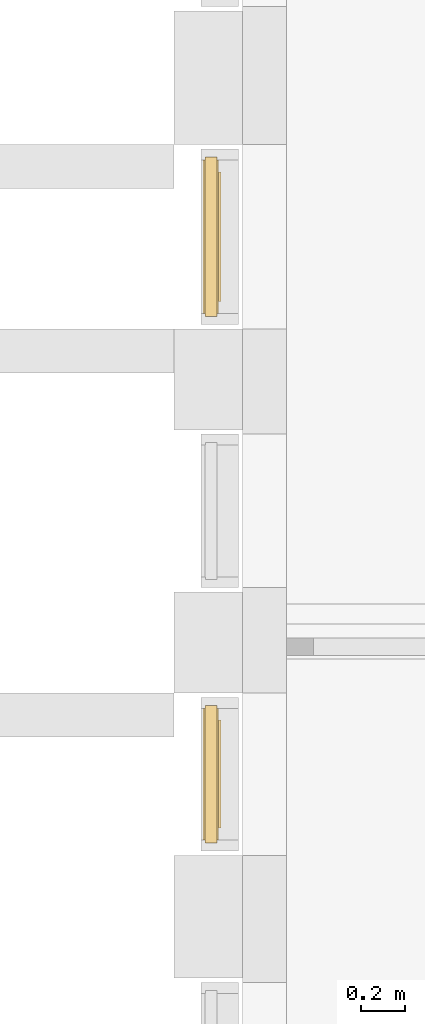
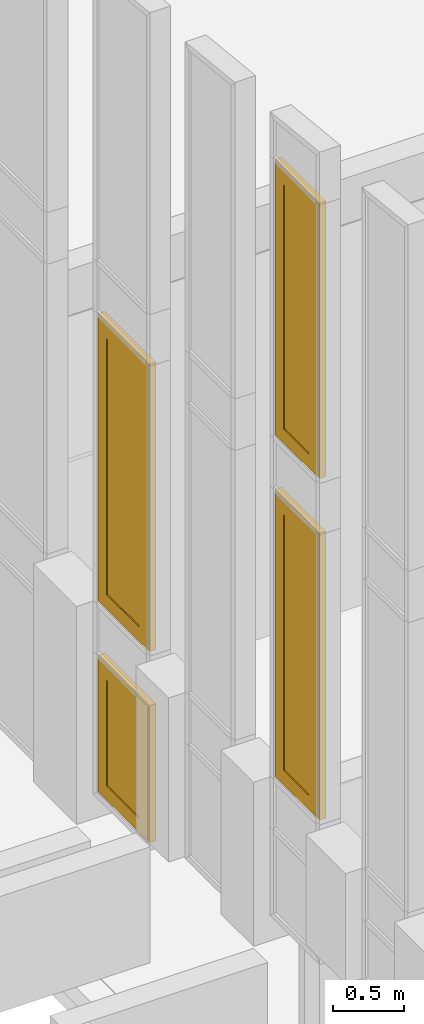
# One storey, part 157 of 246: 4 windows, 2 elements without a shape of their own.
"""IFC2X3 building model written with IfcOpenShell, lengths in millimetres."""

from ifc_helpers import new_model, entity, si_unit, converted_unit, derived_unit, money_unit, direction, frame, origin_with_axes, place, context, subcontext, project, spatial, open_shell, faceted_brep, surface_model, material, material_list, type_object, element, aggregate, save


model = new_model("IFC2X3")

# Units and contexts
model_context = context("Model", 3, precision=0.01, world=origin_with_axes(), true_north=direction((0.0, 1.0)))
body_context = subcontext(model_context, "Body", "Model", "MODEL_VIEW")
ifc_project = project(units=[si_unit("LENGTHUNIT", "METRE", prefix="MILLI"), si_unit("AREAUNIT", "SQUARE_METRE"), si_unit("VOLUMEUNIT", "CUBIC_METRE"), converted_unit("PLANEANGLEUNIT", "DEGREE", entity("IfcPlaneAngleMeasure", 0.0174532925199), si_unit("PLANEANGLEUNIT", "RADIAN"), dimensions=[0, 0, 0, 0, 0, 0, 0]), si_unit("SOLIDANGLEUNIT", "STERADIAN"), money_unit("EUR"), converted_unit("TIMEUNIT", "Year", entity("IfcTimeMeasure", 31556926.0), si_unit("TIMEUNIT", "SECOND"), dimensions=[0, 0, 1, 0, 0, 0, 0]), si_unit("MASSUNIT", "GRAM", prefix="KILO"), si_unit("THERMODYNAMICTEMPERATUREUNIT", "DEGREE_CELSIUS"), si_unit("LUMINOUSINTENSITYUNIT", "LUMEN"), si_unit("ENERGYUNIT", "JOULE", prefix="MEGA"), derived_unit("THERMALCONDUCTANCEUNIT", [(si_unit("POWERUNIT", "WATT"), 1), (si_unit("LENGTHUNIT", "METRE"), -1), (si_unit("THERMODYNAMICTEMPERATUREUNIT", "KELVIN"), -1)]), derived_unit("SPECIFICHEATCAPACITYUNIT", [(si_unit("ENERGYUNIT", "JOULE"), 1), (si_unit("MASSUNIT", "GRAM", prefix="KILO"), -1), (si_unit("THERMODYNAMICTEMPERATUREUNIT", "KELVIN"), -1)]), derived_unit("MASSDENSITYUNIT", [(si_unit("MASSUNIT", "GRAM", prefix="KILO"), 1), (si_unit("VOLUMEUNIT", "CUBIC_METRE"), -1)])], contexts=[model_context])

# Site, building, storey
site_placement = place(None, origin_with_axes())
site = spatial("IfcSite", under=ifc_project, at=site_placement, Name="L.Koidula tn 11b", CompositionType="ELEMENT")
building_placement = place(site_placement, origin_with_axes())
building = spatial("IfcBuilding", under=site, at=building_placement, Name="Rakvere Riigigümnaasium", CompositionType="ELEMENT")
storey_placement = place(building_placement, origin_with_axes())
storey = spatial("IfcBuildingStorey", under=building, at=storey_placement, Name="1.korrus 0,00", CompositionType="ELEMENT", Elevation=0.0)

# Curtain wall, windows
curtain_wall_type = type_object("IfcCurtainWallType", Name="Curtain Wall Type", PredefinedType="NOTDEFINED")
curtain_wall_1_placement = place(storey_placement, frame((35156.0871538, 27260.4554897, 2070.0), z_axis=(0.0, 0.0, 1.0), x_axis=(1.0, 0.0, 0.0)))
curtain_wall_1 = element("IfcCurtainWall", 1, at=curtain_wall_1_placement, inside=storey, type_object=curtain_wall_type, Name="KLF-04-03")
ifc_material_1 = material(Name="Alumiiniumprofiil (RAL 7021)")
ifc_material_2 = material(Name="Klaaspakett 3x")
ifc_material_list = material_list([ifc_material_1, ifc_material_2])
window_style_1 = type_object("IfcWindowStyle", Name="726 x 2476 x 54", ConstructionType="NOTDEFINED", OperationType="NOTDEFINED", ParameterTakesPrecedence=False, Sizeable=False)
window_1_placement = place(curtain_wall_1_placement, frame((0.0, 0.0, 2925.00005204), z_axis=(0.0, 0.0, 1.0), x_axis=(0.0, 1.0, 0.0)))
window_1 = element("IfcWindow", 2, at=window_1_placement, type_object=window_style_1, material=ifc_material_list, Name="KLF-04-A-3", ObjectType="WINDOW", context=body_context, shape_type="SurfaceModel", body=[
    surface_model("IfcShellBasedSurfaceModel", [(349.999995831, 36.0, -1225.0), (295.999995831, 36.0, -1171.0), (-296.000004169, 36.0, -1171.0), (-350.000004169, 36.0, -1225.0)], [open_shell([[[0, 1, 2, 3]]])]),
    surface_model("IfcShellBasedSurfaceModel", [(-350.000004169, 36.0, -1225.0), (-296.000004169, 36.0, -1171.0), (-296.000004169, 36.0, 1171.0), (-350.000004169, 36.0, 1225.0)], [open_shell([[[0, 1, 2, 3]]])]),
    surface_model("IfcShellBasedSurfaceModel", [(349.999995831, 36.0, 1225.0), (-350.000004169, 36.0, 1225.0), (-296.000004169, 36.0, 1171.0), (295.999995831, 36.0, 1171.0)], [open_shell([[[0, 1, 2, 3]]])]),
    surface_model("IfcShellBasedSurfaceModel", [(349.999995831, 36.0, -1225.0), (349.999995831, 36.0, 1225.0), (295.999995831, 36.0, 1171.0), (295.999995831, 36.0, -1171.0)], [open_shell([[[0, 1, 2, 3]]])]),
    faceted_brep([(349.999995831, -34.0, -1225.0), (-350.000004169, -34.0, -1225.0), (-350.000004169, 36.0, -1225.0), (349.999995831, 36.0, -1225.0), (295.999995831, -34.0, -1171.0), (-296.000004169, -34.0, -1171.0), (-296.000004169, 36.0, -1171.0), (295.999995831, 36.0, -1171.0)], [[[0, 1, 2, 3]], [[0, 4, 5, 1]], [[1, 5, 6, 2]], [[3, 2, 6, 7]], [[4, 0, 3, 7]], [[5, 4, 7, 6]]]),
    faceted_brep([(-350.000004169, -34.0, -1225.0), (-350.000004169, -34.0, 1225.0), (-350.000004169, 36.0, 1225.0), (-350.000004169, 36.0, -1225.0), (-296.000004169, -34.0, -1171.0), (-296.000004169, -34.0, 1171.0), (-296.000004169, 36.0, 1171.0), (-296.000004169, 36.0, -1171.0)], [[[0, 1, 2, 3]], [[0, 4, 5, 1]], [[1, 5, 6, 2]], [[3, 2, 6, 7]], [[4, 0, 3, 7]], [[5, 4, 7, 6]]]),
    faceted_brep([(349.999995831, -34.0, 1225.0), (295.999995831, -34.0, 1171.0), (295.999995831, 36.0, 1171.0), (349.999995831, 36.0, 1225.0), (-350.000004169, -34.0, 1225.0), (-296.000004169, -34.0, 1171.0), (-296.000004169, 36.0, 1171.0), (-350.000004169, 36.0, 1225.0)], [[[0, 1, 2, 3]], [[0, 4, 5, 1]], [[1, 5, 6, 2]], [[3, 2, 6, 7]], [[4, 0, 3, 7]], [[5, 4, 7, 6]]]),
    faceted_brep([(349.999995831, -34.0, -1225.0), (295.999995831, -34.0, -1171.0), (295.999995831, 36.0, -1171.0), (349.999995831, 36.0, -1225.0), (349.999995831, -34.0, 1225.0), (295.999995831, -34.0, 1171.0), (295.999995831, 36.0, 1171.0), (349.999995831, 36.0, 1225.0)], [[[0, 1, 2, 3]], [[0, 4, 5, 1]], [[1, 5, 6, 2]], [[3, 2, 6, 7]], [[4, 0, 3, 7]], [[5, 4, 7, 6]]]),
    faceted_brep([(363.000004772, -27.0, -1238.00000894), (-363.000013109, -27.0, -1238.00000894), (-363.000013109, 27.0, -1238.00000894), (363.000004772, 27.0, -1238.00000894), (349.999995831, -27.0, -1225.0), (-350.000004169, -27.0, -1225.0), (-350.000004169, 27.0, -1225.0), (349.999995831, 27.0, -1225.0)], [[[0, 1, 2, 3]], [[0, 4, 5, 1]], [[1, 5, 6, 2]], [[3, 2, 6, 7]], [[4, 0, 3, 7]], [[5, 4, 7, 6]]]),
    faceted_brep([(-363.000013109, -27.0, -1238.00000894), (-363.000013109, -27.0, 1238.00000894), (-363.000013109, 27.0, 1238.00000894), (-363.000013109, 27.0, -1238.00000894), (-350.000004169, -27.0, -1225.0), (-350.000004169, -27.0, 1225.0), (-350.000004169, 27.0, 1225.0), (-350.000004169, 27.0, -1225.0)], [[[0, 1, 2, 3]], [[0, 4, 5, 1]], [[1, 5, 6, 2]], [[3, 2, 6, 7]], [[4, 0, 3, 7]], [[5, 4, 7, 6]]]),
    faceted_brep([(-363.000013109, -27.0, 1238.00000894), (363.000004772, -27.0, 1238.00000894), (363.000004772, 27.0, 1238.00000894), (-363.000013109, 27.0, 1238.00000894), (-350.000004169, -27.0, 1225.0), (349.999995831, -27.0, 1225.0), (349.999995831, 27.0, 1225.0), (-350.000004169, 27.0, 1225.0)], [[[0, 1, 2, 3]], [[0, 4, 5, 1]], [[1, 5, 6, 2]], [[3, 2, 6, 7]], [[4, 0, 3, 7]], [[5, 4, 7, 6]]]),
    faceted_brep([(363.000004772, -27.0, 1238.00000894), (363.000004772, -27.0, -1238.00000894), (363.000004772, 27.0, -1238.00000894), (363.000004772, 27.0, 1238.00000894), (349.999995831, -27.0, 1225.0), (349.999995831, -27.0, -1225.0), (349.999995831, 27.0, -1225.0), (349.999995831, 27.0, 1225.0)], [[[0, 1, 2, 3]], [[0, 4, 5, 1]], [[1, 5, 6, 2]], [[3, 2, 6, 7]], [[4, 0, 3, 7]], [[5, 4, 7, 6]]]),
    faceted_brep([(227.999995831, 36.0, -1103.0), (227.999995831, -44.0, -1103.0), (227.999995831, -44.0, 1103.0), (227.999995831, 36.0, 1103.0), (295.999995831, 36.0, -1171.0), (295.999995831, -44.0, -1171.0), (295.999995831, -44.0, 1171.0), (295.999995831, 36.0, 1171.0)], [[[0, 1, 2, 3]], [[4, 5, 1, 0]], [[1, 5, 6, 2]], [[3, 2, 6, 7]], [[0, 3, 7, 4]], [[7, 6, 5, 4]]]),
    faceted_brep([(-296.000004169, 36.0, -1171.0), (-296.000004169, -44.0, -1171.0), (-296.000004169, -44.0, 1171.0), (-296.000004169, 36.0, 1171.0), (-228.000004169, 36.0, -1103.0), (-228.000004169, -44.0, -1103.0), (-228.000004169, -44.0, 1103.0), (-228.000004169, 36.0, 1103.0)], [[[0, 1, 2, 3]], [[4, 5, 1, 0]], [[1, 5, 6, 2]], [[3, 2, 6, 7]], [[0, 3, 7, 4]], [[7, 6, 5, 4]]]),
    faceted_brep([(-296.000004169, 36.0, -1171.0), (-296.000004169, -44.0, -1171.0), (-228.000004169, -44.0, -1103.0), (-228.000004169, 36.0, -1103.0), (295.999995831, 36.0, -1171.0), (295.999995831, -44.0, -1171.0), (227.999995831, -44.0, -1103.0), (227.999995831, 36.0, -1103.0)], [[[0, 1, 2, 3]], [[4, 5, 1, 0]], [[1, 5, 6, 2]], [[3, 2, 6, 7]], [[0, 3, 7, 4]], [[7, 6, 5, 4]]]),
    faceted_brep([(295.999995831, 36.0, 1171.0), (295.999995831, -44.0, 1171.0), (227.999995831, -44.0, 1103.0), (227.999995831, 36.0, 1103.0), (-296.000004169, 36.0, 1171.0), (-296.000004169, -44.0, 1171.0), (-228.000004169, -44.0, 1103.0), (-228.000004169, 36.0, 1103.0)], [[[0, 1, 2, 3]], [[4, 5, 1, 0]], [[1, 5, 6, 2]], [[3, 2, 6, 7]], [[0, 3, 7, 4]], [[7, 6, 5, 4]]]),
    faceted_brep([(227.999995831, 27.0, -1103.0), (227.999995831, 11.0, -1103.0), (-228.000004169, 11.0, -1103.0), (-228.000004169, 27.0, -1103.0), (227.999995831, 27.0, 1103.0), (227.999995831, 11.0, 1103.0), (-228.000004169, 11.0, 1103.0), (-228.000004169, 27.0, 1103.0)], [[[0, 1, 2, 3]], [[4, 5, 1, 0]], [[1, 5, 6, 2]], [[3, 2, 6, 7]], [[0, 3, 7, 4]], [[7, 6, 5, 4]]]),
])
window_style_2 = type_object("IfcWindowStyle", Name="726 x 1181 x 54", ConstructionType="NOTDEFINED", OperationType="NOTDEFINED", ParameterTakesPrecedence=False, Sizeable=False)
window_2_placement = place(curtain_wall_1_placement, frame((0.0, 0.0, 615.00002602), z_axis=(0.0, 0.0, 1.0), x_axis=(0.0, 1.0, 0.0)))
window_2 = element("IfcWindow", 3, at=window_2_placement, type_object=window_style_2, material=ifc_material_list, Name="KLF-04-A-4", ObjectType="WINDOW", context=body_context, shape_type="SurfaceModel", body=[
    surface_model("IfcShellBasedSurfaceModel", [(349.999993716, 36.0, -565.000023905), (295.999993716, 36.0, -511.000023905), (-295.999999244, 36.0, -511.000023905), (-349.999999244, 36.0, -565.000023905)], [open_shell([[[0, 1, 2, 3]]])]),
    surface_model("IfcShellBasedSurfaceModel", [(-349.999999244, 36.0, -565.000023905), (-295.999999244, 36.0, -511.000023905), (-295.999999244, 36.0, 536.000024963), (-349.999999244, 36.0, 590.000024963)], [open_shell([[[0, 1, 2, 3]]])]),
    surface_model("IfcShellBasedSurfaceModel", [(349.999993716, 36.0, 590.000024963), (-349.999999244, 36.0, 590.000024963), (-295.999999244, 36.0, 536.000024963), (295.999993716, 36.0, 536.000024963)], [open_shell([[[0, 1, 2, 3]]])]),
    surface_model("IfcShellBasedSurfaceModel", [(349.999993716, 36.0, -565.000023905), (349.999993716, 36.0, 590.000024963), (295.999993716, 36.0, 536.000024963), (295.999993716, 36.0, -511.000023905)], [open_shell([[[0, 1, 2, 3]]])]),
    faceted_brep([(349.999993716, -34.0, -565.000023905), (-349.999999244, -34.0, -565.000023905), (-349.999999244, 36.0, -565.000023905), (349.999993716, 36.0, -565.000023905), (295.999993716, -34.0, -511.000023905), (-295.999999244, -34.0, -511.000023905), (-295.999999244, 36.0, -511.000023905), (295.999993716, 36.0, -511.000023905)], [[[0, 1, 2, 3]], [[0, 4, 5, 1]], [[1, 5, 6, 2]], [[3, 2, 6, 7]], [[4, 0, 3, 7]], [[5, 4, 7, 6]]]),
    faceted_brep([(-349.999999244, -34.0, -565.000023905), (-349.999999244, -34.0, 590.000024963), (-349.999999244, 36.0, 590.000024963), (-349.999999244, 36.0, -565.000023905), (-295.999999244, -34.0, -511.000023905), (-295.999999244, -34.0, 536.000024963), (-295.999999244, 36.0, 536.000024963), (-295.999999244, 36.0, -511.000023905)], [[[0, 1, 2, 3]], [[0, 4, 5, 1]], [[1, 5, 6, 2]], [[3, 2, 6, 7]], [[4, 0, 3, 7]], [[5, 4, 7, 6]]]),
    faceted_brep([(349.999993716, -34.0, 590.000024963), (295.999993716, -34.0, 536.000024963), (295.999993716, 36.0, 536.000024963), (349.999993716, 36.0, 590.000024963), (-349.999999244, -34.0, 590.000024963), (-295.999999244, -34.0, 536.000024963), (-295.999999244, 36.0, 536.000024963), (-349.999999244, 36.0, 590.000024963)], [[[0, 1, 2, 3]], [[0, 4, 5, 1]], [[1, 5, 6, 2]], [[3, 2, 6, 7]], [[4, 0, 3, 7]], [[5, 4, 7, 6]]]),
    faceted_brep([(349.999993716, -34.0, -565.000023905), (295.999993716, -34.0, -511.000023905), (295.999993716, 36.0, -511.000023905), (349.999993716, 36.0, -565.000023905), (349.999993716, -34.0, 590.000024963), (295.999993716, -34.0, 536.000024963), (295.999993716, 36.0, 536.000024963), (349.999993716, 36.0, 590.000024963)], [[[0, 1, 2, 3]], [[0, 4, 5, 1]], [[1, 5, 6, 2]], [[3, 2, 6, 7]], [[4, 0, 3, 7]], [[5, 4, 7, 6]]]),
    faceted_brep([(362.999994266, -27.0, -578.000024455), (-362.999999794, -27.0, -578.000024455), (-362.999999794, 27.0, -578.000024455), (362.999994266, 27.0, -578.000024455), (349.999993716, -27.0, -565.000023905), (-349.999999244, -27.0, -565.000023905), (-349.999999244, 27.0, -565.000023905), (349.999993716, 27.0, -565.000023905)], [[[0, 1, 2, 3]], [[0, 4, 5, 1]], [[1, 5, 6, 2]], [[3, 2, 6, 7]], [[4, 0, 3, 7]], [[5, 4, 7, 6]]]),
    faceted_brep([(-362.999999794, -27.0, -578.000024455), (-362.999999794, -27.0, 603.000025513), (-362.999999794, 27.0, 603.000025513), (-362.999999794, 27.0, -578.000024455), (-349.999999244, -27.0, -565.000023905), (-349.999999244, -27.0, 590.000024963), (-349.999999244, 27.0, 590.000024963), (-349.999999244, 27.0, -565.000023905)], [[[0, 1, 2, 3]], [[0, 4, 5, 1]], [[1, 5, 6, 2]], [[3, 2, 6, 7]], [[4, 0, 3, 7]], [[5, 4, 7, 6]]]),
    faceted_brep([(-362.999999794, -27.0, 603.000025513), (362.999994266, -27.0, 603.000025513), (362.999994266, 27.0, 603.000025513), (-362.999999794, 27.0, 603.000025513), (-349.999999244, -27.0, 590.000024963), (349.999993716, -27.0, 590.000024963), (349.999993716, 27.0, 590.000024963), (-349.999999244, 27.0, 590.000024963)], [[[0, 1, 2, 3]], [[0, 4, 5, 1]], [[1, 5, 6, 2]], [[3, 2, 6, 7]], [[4, 0, 3, 7]], [[5, 4, 7, 6]]]),
    faceted_brep([(362.999994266, -27.0, 603.000025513), (362.999994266, -27.0, -578.000024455), (362.999994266, 27.0, -578.000024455), (362.999994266, 27.0, 603.000025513), (349.999993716, -27.0, 590.000024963), (349.999993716, -27.0, -565.000023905), (349.999993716, 27.0, -565.000023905), (349.999993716, 27.0, 590.000024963)], [[[0, 1, 2, 3]], [[0, 4, 5, 1]], [[1, 5, 6, 2]], [[3, 2, 6, 7]], [[4, 0, 3, 7]], [[5, 4, 7, 6]]]),
    faceted_brep([(227.999993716, 36.0, -443.000023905), (227.999993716, -44.0, -443.000023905), (227.999993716, -44.0, 468.000024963), (227.999993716, 36.0, 468.000024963), (295.999993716, 36.0, -511.000023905), (295.999993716, -44.0, -511.000023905), (295.999993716, -44.0, 536.000024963), (295.999993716, 36.0, 536.000024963)], [[[0, 1, 2, 3]], [[4, 5, 1, 0]], [[1, 5, 6, 2]], [[3, 2, 6, 7]], [[0, 3, 7, 4]], [[7, 6, 5, 4]]]),
    faceted_brep([(-295.999999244, 36.0, -511.000023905), (-295.999999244, -44.0, -511.000023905), (-295.999999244, -44.0, 536.000024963), (-295.999999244, 36.0, 536.000024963), (-227.999999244, 36.0, -443.000023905), (-227.999999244, -44.0, -443.000023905), (-227.999999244, -44.0, 468.000024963), (-227.999999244, 36.0, 468.000024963)], [[[0, 1, 2, 3]], [[4, 5, 1, 0]], [[1, 5, 6, 2]], [[3, 2, 6, 7]], [[0, 3, 7, 4]], [[7, 6, 5, 4]]]),
    faceted_brep([(-295.999999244, 36.0, -511.000023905), (-295.999999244, -44.0, -511.000023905), (-227.999999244, -44.0, -443.000023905), (-227.999999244, 36.0, -443.000023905), (295.999993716, 36.0, -511.000023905), (295.999993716, -44.0, -511.000023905), (227.999993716, -44.0, -443.000023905), (227.999993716, 36.0, -443.000023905)], [[[0, 1, 2, 3]], [[4, 5, 1, 0]], [[1, 5, 6, 2]], [[3, 2, 6, 7]], [[0, 3, 7, 4]], [[7, 6, 5, 4]]]),
    faceted_brep([(295.999993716, 36.0, 536.000024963), (295.999993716, -44.0, 536.000024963), (227.999993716, -44.0, 468.000024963), (227.999993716, 36.0, 468.000024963), (-295.999999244, 36.0, 536.000024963), (-295.999999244, -44.0, 536.000024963), (-227.999999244, -44.0, 468.000024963), (-227.999999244, 36.0, 468.000024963)], [[[0, 1, 2, 3]], [[4, 5, 1, 0]], [[1, 5, 6, 2]], [[3, 2, 6, 7]], [[0, 3, 7, 4]], [[7, 6, 5, 4]]]),
    faceted_brep([(227.999993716, 27.0, -443.000023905), (227.999993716, 11.0, -443.000023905), (-227.999999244, 11.0, -443.000023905), (-227.999999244, 27.0, -443.000023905), (227.999993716, 27.0, 468.000024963), (227.999993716, 11.0, 468.000024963), (-227.999999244, 11.0, 468.000024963), (-227.999999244, 27.0, 468.000024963)], [[[0, 1, 2, 3]], [[4, 5, 1, 0]], [[1, 5, 6, 2]], [[3, 2, 6, 7]], [[0, 3, 7, 4]], [[7, 6, 5, 4]]]),
])
aggregate(curtain_wall_1, [window_1, window_2])

curtain_wall_2_placement = place(storey_placement, frame((35156.0871538, 24810.4554726, 2540.0), z_axis=(0.0, 0.0, 1.0), x_axis=(1.0, 0.0, 0.0)))
curtain_wall_2 = element("IfcCurtainWall", 4, at=curtain_wall_2_placement, inside=storey, type_object=curtain_wall_type, Name="KLF-04-05")
window_style_3 = type_object("IfcWindowStyle", Name="626 x 2376 x 54", ConstructionType="NOTDEFINED", OperationType="NOTDEFINED", ParameterTakesPrecedence=False, Sizeable=False)
window_3_placement = place(curtain_wall_2_placement, frame((0.0, 4.35557723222e-06, 5350.00005204), z_axis=(0.0, 0.0, 1.0), x_axis=(0.0, 1.0, 0.0)))
window_3 = element("IfcWindow", 5, at=window_3_placement, type_object=window_style_3, material=ifc_material_list, Name="KLF-04-A-6", ObjectType="WINDOW", context=body_context, shape_type="SurfaceModel", body=[
    surface_model("IfcShellBasedSurfaceModel", [(299.999996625, 36.0, -1175.0), (245.999996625, 36.0, -1121.0), (-246.000003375, 36.0, -1121.0), (-300.000003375, 36.0, -1175.0)], [open_shell([[[0, 1, 2, 3]]])]),
    surface_model("IfcShellBasedSurfaceModel", [(-300.000003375, 36.0, -1175.0), (-246.000003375, 36.0, -1121.0), (-246.000003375, 36.0, 1121.0), (-300.000003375, 36.0, 1175.0)], [open_shell([[[0, 1, 2, 3]]])]),
    surface_model("IfcShellBasedSurfaceModel", [(299.999996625, 36.0, 1175.0), (-300.000003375, 36.0, 1175.0), (-246.000003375, 36.0, 1121.0), (245.999996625, 36.0, 1121.0)], [open_shell([[[0, 1, 2, 3]]])]),
    surface_model("IfcShellBasedSurfaceModel", [(299.999996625, 36.0, -1175.0), (299.999996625, 36.0, 1175.0), (245.999996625, 36.0, 1121.0), (245.999996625, 36.0, -1121.0)], [open_shell([[[0, 1, 2, 3]]])]),
    faceted_brep([(299.999996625, -34.0, -1175.0), (-300.000003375, -34.0, -1175.0), (-300.000003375, 36.0, -1175.0), (299.999996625, 36.0, -1175.0), (245.999996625, -34.0, -1121.0), (-246.000003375, -34.0, -1121.0), (-246.000003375, 36.0, -1121.0), (245.999996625, 36.0, -1121.0)], [[[0, 1, 2, 3]], [[0, 4, 5, 1]], [[1, 5, 6, 2]], [[3, 2, 6, 7]], [[4, 0, 3, 7]], [[5, 4, 7, 6]]]),
    faceted_brep([(-300.000003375, -34.0, -1175.0), (-300.000003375, -34.0, 1175.0), (-300.000003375, 36.0, 1175.0), (-300.000003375, 36.0, -1175.0), (-246.000003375, -34.0, -1121.0), (-246.000003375, -34.0, 1121.0), (-246.000003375, 36.0, 1121.0), (-246.000003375, 36.0, -1121.0)], [[[0, 1, 2, 3]], [[0, 4, 5, 1]], [[1, 5, 6, 2]], [[3, 2, 6, 7]], [[4, 0, 3, 7]], [[5, 4, 7, 6]]]),
    faceted_brep([(299.999996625, -34.0, 1175.0), (245.999996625, -34.0, 1121.0), (245.999996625, 36.0, 1121.0), (299.999996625, 36.0, 1175.0), (-300.000003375, -34.0, 1175.0), (-246.000003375, -34.0, 1121.0), (-246.000003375, 36.0, 1121.0), (-300.000003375, 36.0, 1175.0)], [[[0, 1, 2, 3]], [[0, 4, 5, 1]], [[1, 5, 6, 2]], [[3, 2, 6, 7]], [[4, 0, 3, 7]], [[5, 4, 7, 6]]]),
    faceted_brep([(299.999996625, -34.0, -1175.0), (245.999996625, -34.0, -1121.0), (245.999996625, 36.0, -1121.0), (299.999996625, 36.0, -1175.0), (299.999996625, -34.0, 1175.0), (245.999996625, -34.0, 1121.0), (245.999996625, 36.0, 1121.0), (299.999996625, 36.0, 1175.0)], [[[0, 1, 2, 3]], [[0, 4, 5, 1]], [[1, 5, 6, 2]], [[3, 2, 6, 7]], [[4, 0, 3, 7]], [[5, 4, 7, 6]]]),
    faceted_brep([(312.999996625, -27.0, -1188.0), (-313.000003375, -27.0, -1188.0), (-313.000003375, 27.0, -1188.0), (312.999996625, 27.0, -1188.0), (299.999996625, -27.0, -1175.0), (-300.000003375, -27.0, -1175.0), (-300.000003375, 27.0, -1175.0), (299.999996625, 27.0, -1175.0)], [[[0, 1, 2, 3]], [[0, 4, 5, 1]], [[1, 5, 6, 2]], [[3, 2, 6, 7]], [[4, 0, 3, 7]], [[5, 4, 7, 6]]]),
    faceted_brep([(-313.000003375, -27.0, -1188.0), (-313.000003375, -27.0, 1188.0), (-313.000003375, 27.0, 1188.0), (-313.000003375, 27.0, -1188.0), (-300.000003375, -27.0, -1175.0), (-300.000003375, -27.0, 1175.0), (-300.000003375, 27.0, 1175.0), (-300.000003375, 27.0, -1175.0)], [[[0, 1, 2, 3]], [[0, 4, 5, 1]], [[1, 5, 6, 2]], [[3, 2, 6, 7]], [[4, 0, 3, 7]], [[5, 4, 7, 6]]]),
    faceted_brep([(-313.000003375, -27.0, 1188.0), (312.999996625, -27.0, 1188.0), (312.999996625, 27.0, 1188.0), (-313.000003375, 27.0, 1188.0), (-300.000003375, -27.0, 1175.0), (299.999996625, -27.0, 1175.0), (299.999996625, 27.0, 1175.0), (-300.000003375, 27.0, 1175.0)], [[[0, 1, 2, 3]], [[0, 4, 5, 1]], [[1, 5, 6, 2]], [[3, 2, 6, 7]], [[4, 0, 3, 7]], [[5, 4, 7, 6]]]),
    faceted_brep([(312.999996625, -27.0, 1188.0), (312.999996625, -27.0, -1188.0), (312.999996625, 27.0, -1188.0), (312.999996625, 27.0, 1188.0), (299.999996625, -27.0, 1175.0), (299.999996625, -27.0, -1175.0), (299.999996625, 27.0, -1175.0), (299.999996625, 27.0, 1175.0)], [[[0, 1, 2, 3]], [[0, 4, 5, 1]], [[1, 5, 6, 2]], [[3, 2, 6, 7]], [[4, 0, 3, 7]], [[5, 4, 7, 6]]]),
    faceted_brep([(177.999996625, 36.0, -1053.0), (177.999996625, -44.0, -1053.0), (177.999996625, -44.0, 1053.0), (177.999996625, 36.0, 1053.0), (245.999996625, 36.0, -1121.0), (245.999996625, -44.0, -1121.0), (245.999996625, -44.0, 1121.0), (245.999996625, 36.0, 1121.0)], [[[0, 1, 2, 3]], [[4, 5, 1, 0]], [[1, 5, 6, 2]], [[3, 2, 6, 7]], [[0, 3, 7, 4]], [[7, 6, 5, 4]]]),
    faceted_brep([(-246.000003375, 36.0, -1121.0), (-246.000003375, -44.0, -1121.0), (-246.000003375, -44.0, 1121.0), (-246.000003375, 36.0, 1121.0), (-178.000003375, 36.0, -1053.0), (-178.000003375, -44.0, -1053.0), (-178.000003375, -44.0, 1053.0), (-178.000003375, 36.0, 1053.0)], [[[0, 1, 2, 3]], [[4, 5, 1, 0]], [[1, 5, 6, 2]], [[3, 2, 6, 7]], [[0, 3, 7, 4]], [[7, 6, 5, 4]]]),
    faceted_brep([(-246.000003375, 36.0, -1121.0), (-246.000003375, -44.0, -1121.0), (-178.000003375, -44.0, -1053.0), (-178.000003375, 36.0, -1053.0), (245.999996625, 36.0, -1121.0), (245.999996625, -44.0, -1121.0), (177.999996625, -44.0, -1053.0), (177.999996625, 36.0, -1053.0)], [[[0, 1, 2, 3]], [[4, 5, 1, 0]], [[1, 5, 6, 2]], [[3, 2, 6, 7]], [[0, 3, 7, 4]], [[7, 6, 5, 4]]]),
    faceted_brep([(245.999996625, 36.0, 1121.0), (245.999996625, -44.0, 1121.0), (177.999996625, -44.0, 1053.0), (177.999996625, 36.0, 1053.0), (-246.000003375, 36.0, 1121.0), (-246.000003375, -44.0, 1121.0), (-178.000003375, -44.0, 1053.0), (-178.000003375, 36.0, 1053.0)], [[[0, 1, 2, 3]], [[4, 5, 1, 0]], [[1, 5, 6, 2]], [[3, 2, 6, 7]], [[0, 3, 7, 4]], [[7, 6, 5, 4]]]),
    faceted_brep([(177.999996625, 27.0, -1053.0), (177.999996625, 11.0, -1053.0), (-178.000003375, 11.0, -1053.0), (-178.000003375, 27.0, -1053.0), (177.999996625, 27.0, 1053.0), (177.999996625, 11.0, 1053.0), (-178.000003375, 11.0, 1053.0), (-178.000003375, 27.0, 1053.0)], [[[0, 1, 2, 3]], [[4, 5, 1, 0]], [[1, 5, 6, 2]], [[3, 2, 6, 7]], [[0, 3, 7, 4]], [[7, 6, 5, 4]]]),
])
window_style_4 = type_object("IfcWindowStyle", Name="626 x 2476 x 54", ConstructionType="NOTDEFINED", OperationType="NOTDEFINED", ParameterTakesPrecedence=False, Sizeable=False)
window_4_placement = place(curtain_wall_2_placement, frame((0.0, 0.0, 2455.00005204), z_axis=(0.0, 0.0, 1.0), x_axis=(0.0, 1.0, 0.0)))
window_4 = element("IfcWindow", 6, at=window_4_placement, type_object=window_style_4, material=ifc_material_list, Name="KLF-04-A-5", ObjectType="WINDOW", context=body_context, shape_type="SurfaceModel", body=[
    surface_model("IfcShellBasedSurfaceModel", [(300.000000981, 36.0, -1225.0), (246.000000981, 36.0, -1171.0), (-245.999999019, 36.0, -1171.0), (-299.999999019, 36.0, -1225.0)], [open_shell([[[0, 1, 2, 3]]])]),
    surface_model("IfcShellBasedSurfaceModel", [(-299.999999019, 36.0, -1225.0), (-245.999999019, 36.0, -1171.0), (-245.999999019, 36.0, 1171.0), (-299.999999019, 36.0, 1225.0)], [open_shell([[[0, 1, 2, 3]]])]),
    surface_model("IfcShellBasedSurfaceModel", [(300.000000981, 36.0, 1225.0), (-299.999999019, 36.0, 1225.0), (-245.999999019, 36.0, 1171.0), (246.000000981, 36.0, 1171.0)], [open_shell([[[0, 1, 2, 3]]])]),
    surface_model("IfcShellBasedSurfaceModel", [(300.000000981, 36.0, -1225.0), (300.000000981, 36.0, 1225.0), (246.000000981, 36.0, 1171.0), (246.000000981, 36.0, -1171.0)], [open_shell([[[0, 1, 2, 3]]])]),
    faceted_brep([(300.000000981, -34.0, -1225.0), (-299.999999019, -34.0, -1225.0), (-299.999999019, 36.0, -1225.0), (300.000000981, 36.0, -1225.0), (246.000000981, -34.0, -1171.0), (-245.999999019, -34.0, -1171.0), (-245.999999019, 36.0, -1171.0), (246.000000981, 36.0, -1171.0)], [[[0, 1, 2, 3]], [[0, 4, 5, 1]], [[1, 5, 6, 2]], [[3, 2, 6, 7]], [[4, 0, 3, 7]], [[5, 4, 7, 6]]]),
    faceted_brep([(-299.999999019, -34.0, -1225.0), (-299.999999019, -34.0, 1225.0), (-299.999999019, 36.0, 1225.0), (-299.999999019, 36.0, -1225.0), (-245.999999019, -34.0, -1171.0), (-245.999999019, -34.0, 1171.0), (-245.999999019, 36.0, 1171.0), (-245.999999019, 36.0, -1171.0)], [[[0, 1, 2, 3]], [[0, 4, 5, 1]], [[1, 5, 6, 2]], [[3, 2, 6, 7]], [[4, 0, 3, 7]], [[5, 4, 7, 6]]]),
    faceted_brep([(300.000000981, -34.0, 1225.0), (246.000000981, -34.0, 1171.0), (246.000000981, 36.0, 1171.0), (300.000000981, 36.0, 1225.0), (-299.999999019, -34.0, 1225.0), (-245.999999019, -34.0, 1171.0), (-245.999999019, 36.0, 1171.0), (-299.999999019, 36.0, 1225.0)], [[[0, 1, 2, 3]], [[0, 4, 5, 1]], [[1, 5, 6, 2]], [[3, 2, 6, 7]], [[4, 0, 3, 7]], [[5, 4, 7, 6]]]),
    faceted_brep([(300.000000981, -34.0, -1225.0), (246.000000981, -34.0, -1171.0), (246.000000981, 36.0, -1171.0), (300.000000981, 36.0, -1225.0), (300.000000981, -34.0, 1225.0), (246.000000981, -34.0, 1171.0), (246.000000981, 36.0, 1171.0), (300.000000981, 36.0, 1225.0)], [[[0, 1, 2, 3]], [[0, 4, 5, 1]], [[1, 5, 6, 2]], [[3, 2, 6, 7]], [[4, 0, 3, 7]], [[5, 4, 7, 6]]]),
    faceted_brep([(313.000009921, -27.0, -1238.00000894), (-313.00000796, -27.0, -1238.00000894), (-313.00000796, 27.0, -1238.00000894), (313.000009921, 27.0, -1238.00000894), (300.000000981, -27.0, -1225.0), (-299.999999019, -27.0, -1225.0), (-299.999999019, 27.0, -1225.0), (300.000000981, 27.0, -1225.0)], [[[0, 1, 2, 3]], [[0, 4, 5, 1]], [[1, 5, 6, 2]], [[3, 2, 6, 7]], [[4, 0, 3, 7]], [[5, 4, 7, 6]]]),
    faceted_brep([(-313.00000796, -27.0, -1238.00000894), (-313.00000796, -27.0, 1238.00000894), (-313.00000796, 27.0, 1238.00000894), (-313.00000796, 27.0, -1238.00000894), (-299.999999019, -27.0, -1225.0), (-299.999999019, -27.0, 1225.0), (-299.999999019, 27.0, 1225.0), (-299.999999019, 27.0, -1225.0)], [[[0, 1, 2, 3]], [[0, 4, 5, 1]], [[1, 5, 6, 2]], [[3, 2, 6, 7]], [[4, 0, 3, 7]], [[5, 4, 7, 6]]]),
    faceted_brep([(-313.00000796, -27.0, 1238.00000894), (313.000009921, -27.0, 1238.00000894), (313.000009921, 27.0, 1238.00000894), (-313.00000796, 27.0, 1238.00000894), (-299.999999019, -27.0, 1225.0), (300.000000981, -27.0, 1225.0), (300.000000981, 27.0, 1225.0), (-299.999999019, 27.0, 1225.0)], [[[0, 1, 2, 3]], [[0, 4, 5, 1]], [[1, 5, 6, 2]], [[3, 2, 6, 7]], [[4, 0, 3, 7]], [[5, 4, 7, 6]]]),
    faceted_brep([(313.000009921, -27.0, 1238.00000894), (313.000009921, -27.0, -1238.00000894), (313.000009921, 27.0, -1238.00000894), (313.000009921, 27.0, 1238.00000894), (300.000000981, -27.0, 1225.0), (300.000000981, -27.0, -1225.0), (300.000000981, 27.0, -1225.0), (300.000000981, 27.0, 1225.0)], [[[0, 1, 2, 3]], [[0, 4, 5, 1]], [[1, 5, 6, 2]], [[3, 2, 6, 7]], [[4, 0, 3, 7]], [[5, 4, 7, 6]]]),
    faceted_brep([(178.000000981, 36.0, -1103.0), (178.000000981, -44.0, -1103.0), (178.000000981, -44.0, 1103.0), (178.000000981, 36.0, 1103.0), (246.000000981, 36.0, -1171.0), (246.000000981, -44.0, -1171.0), (246.000000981, -44.0, 1171.0), (246.000000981, 36.0, 1171.0)], [[[0, 1, 2, 3]], [[4, 5, 1, 0]], [[1, 5, 6, 2]], [[3, 2, 6, 7]], [[0, 3, 7, 4]], [[7, 6, 5, 4]]]),
    faceted_brep([(-245.999999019, 36.0, -1171.0), (-245.999999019, -44.0, -1171.0), (-245.999999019, -44.0, 1171.0), (-245.999999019, 36.0, 1171.0), (-177.999999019, 36.0, -1103.0), (-177.999999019, -44.0, -1103.0), (-177.999999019, -44.0, 1103.0), (-177.999999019, 36.0, 1103.0)], [[[0, 1, 2, 3]], [[4, 5, 1, 0]], [[1, 5, 6, 2]], [[3, 2, 6, 7]], [[0, 3, 7, 4]], [[7, 6, 5, 4]]]),
    faceted_brep([(-245.999999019, 36.0, -1171.0), (-245.999999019, -44.0, -1171.0), (-177.999999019, -44.0, -1103.0), (-177.999999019, 36.0, -1103.0), (246.000000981, 36.0, -1171.0), (246.000000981, -44.0, -1171.0), (178.000000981, -44.0, -1103.0), (178.000000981, 36.0, -1103.0)], [[[0, 1, 2, 3]], [[4, 5, 1, 0]], [[1, 5, 6, 2]], [[3, 2, 6, 7]], [[0, 3, 7, 4]], [[7, 6, 5, 4]]]),
    faceted_brep([(246.000000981, 36.0, 1171.0), (246.000000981, -44.0, 1171.0), (178.000000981, -44.0, 1103.0), (178.000000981, 36.0, 1103.0), (-245.999999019, 36.0, 1171.0), (-245.999999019, -44.0, 1171.0), (-177.999999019, -44.0, 1103.0), (-177.999999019, 36.0, 1103.0)], [[[0, 1, 2, 3]], [[4, 5, 1, 0]], [[1, 5, 6, 2]], [[3, 2, 6, 7]], [[0, 3, 7, 4]], [[7, 6, 5, 4]]]),
    faceted_brep([(178.000000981, 27.0, -1103.0), (178.000000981, 11.0, -1103.0), (-177.999999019, 11.0, -1103.0), (-177.999999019, 27.0, -1103.0), (178.000000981, 27.0, 1103.0), (178.000000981, 11.0, 1103.0), (-177.999999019, 11.0, 1103.0), (-177.999999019, 27.0, 1103.0)], [[[0, 1, 2, 3]], [[4, 5, 1, 0]], [[1, 5, 6, 2]], [[3, 2, 6, 7]], [[0, 3, 7, 4]], [[7, 6, 5, 4]]]),
])
aggregate(curtain_wall_2, [window_3, window_4])

save(model, "model.ifc")
